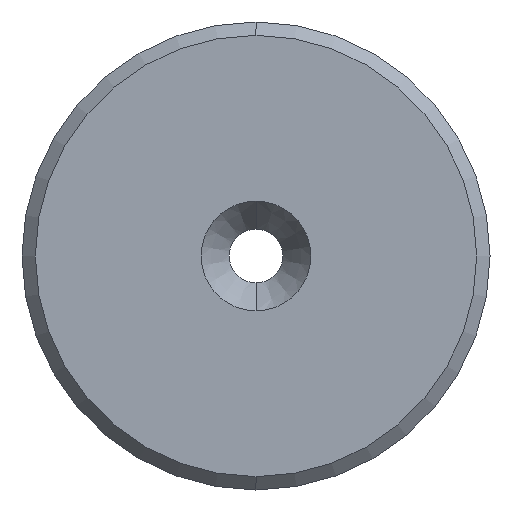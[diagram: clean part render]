
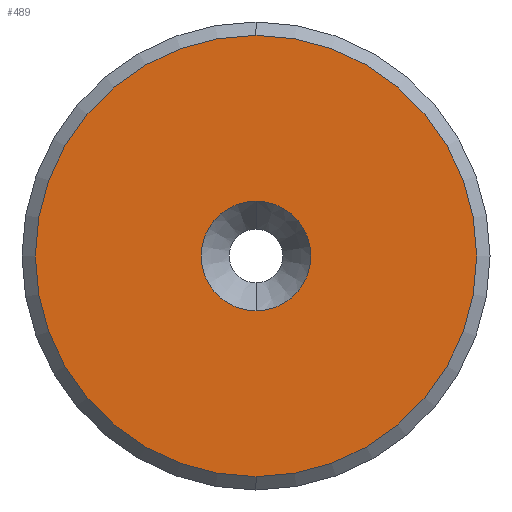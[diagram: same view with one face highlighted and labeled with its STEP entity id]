
A CAD part, left-side view. The second image highlights one B-rep face of the part: STEP entity #489.
In plain terms, the highlighted planar face has unit normal (-1, 0, 0).
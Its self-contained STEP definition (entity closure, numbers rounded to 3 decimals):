
#7 = FACE_BOUND ( 'NONE', #140, .T. ) ;
#25 = ORIENTED_EDGE ( 'NONE', *, *, #38, .F. ) ;
#32 = CIRCLE ( 'NONE', #314, 4.101 ) ;
#35 = CARTESIAN_POINT ( 'NONE',  ( 0., 0., 0. ) ) ;
#38 = EDGE_CURVE ( 'NONE', #452, #378, #32, .T. ) ;
#47 = PLANE ( 'NONE',  #329 ) ;
#58 = EDGE_CURVE ( 'NONE', #378, #452, #491, .T. ) ;
#71 = DIRECTION ( 'NONE',  ( 0., 0., 1. ) ) ;
#77 = DIRECTION ( 'NONE',  ( -1., 0., 0. ) ) ;
#78 = VERTEX_POINT ( 'NONE', #375 ) ;
#80 = DIRECTION ( 'NONE',  ( 0., 0., -1. ) ) ;
#87 = ORIENTED_EDGE ( 'NONE', *, *, #58, .F. ) ;
#140 = EDGE_LOOP ( 'NONE', ( #87, #25 ) ) ;
#166 = CIRCLE ( 'NONE', #175, 16.5 ) ;
#175 = AXIS2_PLACEMENT_3D ( 'NONE', #35, #317, #325 ) ;
#197 = FACE_OUTER_BOUND ( 'NONE', #223, .T. ) ;
#209 = CIRCLE ( 'NONE', #472, 16.5 ) ;
#215 = CARTESIAN_POINT ( 'NONE',  ( 0., 0., 16.5 ) ) ;
#223 = EDGE_LOOP ( 'NONE', ( #228, #412 ) ) ;
#228 = ORIENTED_EDGE ( 'NONE', *, *, #435, .T. ) ;
#229 = DIRECTION ( 'NONE',  ( 1., 0., 0. ) ) ;
#233 = EDGE_CURVE ( 'NONE', #438, #78, #209, .T. ) ;
#250 = DIRECTION ( 'NONE',  ( -1., 0., 0. ) ) ;
#258 = CARTESIAN_POINT ( 'NONE',  ( 0., 0., 0. ) ) ;
#296 = CARTESIAN_POINT ( 'NONE',  ( 0., 0., 0. ) ) ;
#299 = CARTESIAN_POINT ( 'NONE',  ( 0., 4.101, 0. ) ) ;
#314 = AXIS2_PLACEMENT_3D ( 'NONE', #296, #250, #341 ) ;
#317 = DIRECTION ( 'NONE',  ( -1., 0., 0. ) ) ;
#325 = DIRECTION ( 'NONE',  ( 0., 0., -1. ) ) ;
#329 = AXIS2_PLACEMENT_3D ( 'NONE', #299, #229, #80 ) ;
#341 = DIRECTION ( 'NONE',  ( 0., 0., 1. ) ) ;
#347 = AXIS2_PLACEMENT_3D ( 'NONE', #421, #77, #71 ) ;
#350 = DIRECTION ( 'NONE',  ( -1., 0., 0. ) ) ;
#367 = CARTESIAN_POINT ( 'NONE',  ( 0., 0., 4.101 ) ) ;
#375 = CARTESIAN_POINT ( 'NONE',  ( 0., 0., -16.5 ) ) ;
#378 = VERTEX_POINT ( 'NONE', #367 ) ;
#379 = DIRECTION ( 'NONE',  ( 0., 0., -1. ) ) ;
#412 = ORIENTED_EDGE ( 'NONE', *, *, #233, .T. ) ;
#421 = CARTESIAN_POINT ( 'NONE',  ( 0., 0., 0. ) ) ;
#435 = EDGE_CURVE ( 'NONE', #78, #438, #166, .T. ) ;
#438 = VERTEX_POINT ( 'NONE', #215 ) ;
#452 = VERTEX_POINT ( 'NONE', #468 ) ;
#468 = CARTESIAN_POINT ( 'NONE',  ( 0., 0., -4.101 ) ) ;
#472 = AXIS2_PLACEMENT_3D ( 'NONE', #258, #350, #379 ) ;
#489 = ADVANCED_FACE ( 'NONE', ( #197, #7 ), #47, .F. ) ;
#491 = CIRCLE ( 'NONE', #347, 4.101 ) ;
